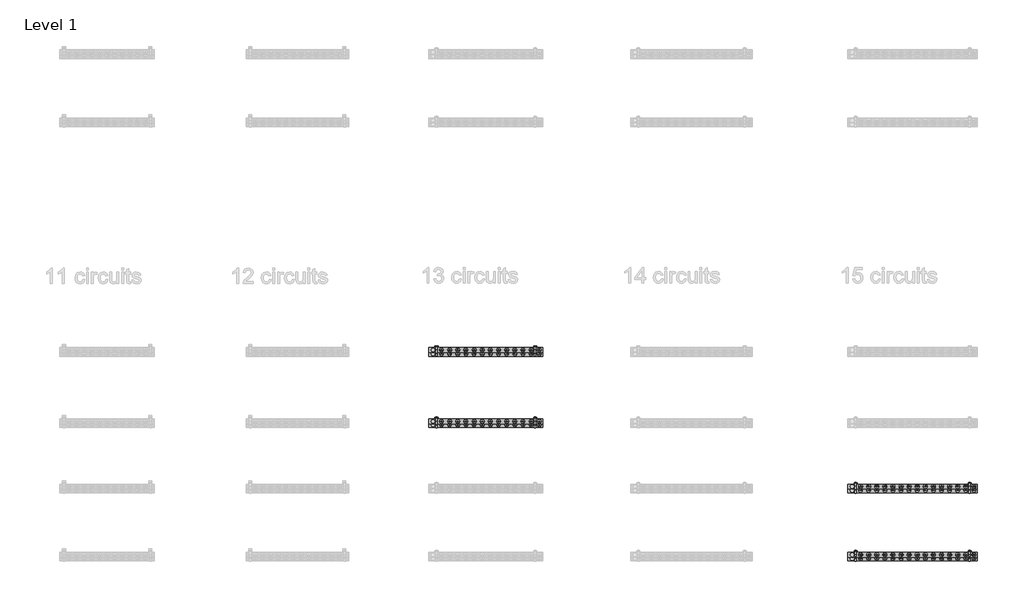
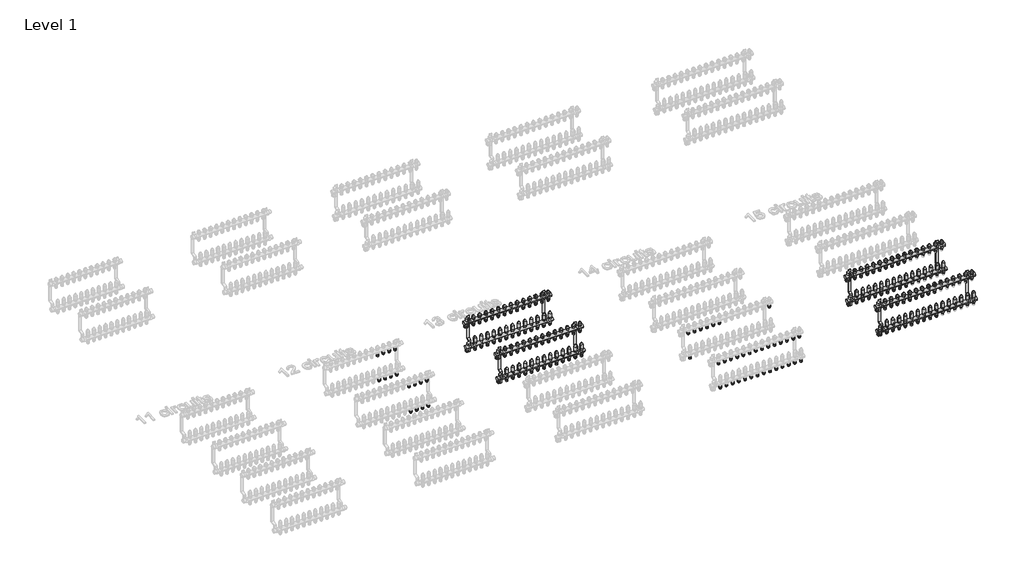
# One storey, part 6 of 23: 140 pipe fittings, 4 valves.
"""IFC4 building model written with IfcOpenShell, lengths in millimetres."""

from ifc_helpers import new_model, si_unit, origin, place, context, project, spatial, transform, mapped, element, save
from components import pipe_fitting_03c6499f, valve_cb73cf64, valve_9b29a5eb, valve_b9f81a7f, valve_96d576d6, valve_c563ffe1, valve_e7cc262d, valve_94d66b99, valve_c404d8d8

model = new_model("IFC4")

# Units and contexts
model_context = context("Model", 3, world=origin())
ifc_project = project(units=[si_unit("LENGTHUNIT", "METRE", prefix="MILLI")], contexts=[model_context])

# Site, building, storey
site = spatial("IfcSite", under=ifc_project)
building = spatial("IfcBuilding", under=site)
storey = spatial("IfcBuildingStorey", under=building, Name="Level 1", Elevation=0.0)

# Pipe fittings
placement = place(None, origin())
pipe_fitting_shape = pipe_fitting_03c6499f(model_context)
element("IfcPipeFitting", 1, ObjectType="Euroconus screwing for multilayer pipes - Manifold FT : Euroconus screwing for multilayer pipes - Manifold FT", at=placement, inside=storey, context=model_context, shape_type="MappedRepresentation", body=[
    mapped(pipe_fitting_shape, transform((12125.7069589, -1164.6959314, 62.88733), x_axis=(0.0, 0.0, -1.0), y_axis=(0.0, 1.0000000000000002, 0.0), z_axis=(1.0000000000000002, 0.0, 0.0))),
])
element("IfcPipeFitting", 2, ObjectType="Euroconus screwing for multilayer pipes - Manifold FT : Euroconus screwing for multilayer pipes - Manifold FT", at=placement, inside=storey, context=model_context, shape_type="MappedRepresentation", body=[
    mapped(pipe_fitting_shape, transform((12076.4342316, -1164.6959314, 62.88733), x_axis=(0.0, 0.0, -1.0), y_axis=(0.0, 1.0000000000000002, 0.0), z_axis=(1.0000000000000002, 0.0, 0.0))),
])
element("IfcPipeFitting", 3, ObjectType="Euroconus screwing for multilayer pipes - Manifold FT : Euroconus screwing for multilayer pipes - Manifold FT", at=placement, inside=storey, context=model_context, shape_type="MappedRepresentation", body=[
    mapped(pipe_fitting_shape, transform((12027.1615043, -1164.6959314, 62.88733), x_axis=(0.0, 0.0, -1.0), y_axis=(0.0, 1.0000000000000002, 0.0), z_axis=(1.0000000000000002, 0.0, 0.0))),
])
element("IfcPipeFitting", 4, ObjectType="Euroconus screwing for multilayer pipes - Manifold FT : Euroconus screwing for multilayer pipes - Manifold FT", at=placement, inside=storey, context=model_context, shape_type="MappedRepresentation", body=[
    mapped(pipe_fitting_shape, transform((12174.9796862, -1164.6959314, 62.88733), x_axis=(0.0, 0.0, -1.0), y_axis=(0.0, 1.0000000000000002, 0.0), z_axis=(1.0000000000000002, 0.0, 0.0))),
])
element("IfcPipeFitting", 5, ObjectType="Euroconus screwing for multilayer pipes - Manifold FT : Euroconus screwing for multilayer pipes - Manifold FT", at=placement, inside=storey, context=model_context, shape_type="MappedRepresentation", body=[
    mapped(pipe_fitting_shape, transform((12125.7069589, -1139.6959314, 272.88733), x_axis=(0.0, 0.0, -1.0), y_axis=(0.0, 1.0000000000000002, 0.0), z_axis=(1.0000000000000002, 0.0, 0.0))),
])
element("IfcPipeFitting", 6, ObjectType="Euroconus screwing for multilayer pipes - Manifold FT : Euroconus screwing for multilayer pipes - Manifold FT", at=placement, inside=storey, context=model_context, shape_type="MappedRepresentation", body=[
    mapped(pipe_fitting_shape, transform((12076.4342316, -1139.6959314, 272.88733), x_axis=(0.0, 0.0, -1.0), y_axis=(0.0, 1.0000000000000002, 0.0), z_axis=(1.0000000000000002, 0.0, 0.0))),
])
element("IfcPipeFitting", 7, ObjectType="Euroconus screwing for multilayer pipes - Manifold FT : Euroconus screwing for multilayer pipes - Manifold FT", at=placement, inside=storey, context=model_context, shape_type="MappedRepresentation", body=[
    mapped(pipe_fitting_shape, transform((12027.1615043, -1139.6959314, 272.88733), x_axis=(0.0, 0.0, -1.0), y_axis=(0.0, 1.0000000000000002, 0.0), z_axis=(1.0000000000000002, 0.0, 0.0))),
])
element("IfcPipeFitting", 8, ObjectType="Euroconus screwing for multilayer pipes - Manifold FT : Euroconus screwing for multilayer pipes - Manifold FT", at=placement, inside=storey, context=model_context, shape_type="MappedRepresentation", body=[
    mapped(pipe_fitting_shape, transform((12174.9796862, -1139.6959314, 272.88733), x_axis=(0.0, 0.0, -1.0), y_axis=(0.0, 1.0000000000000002, 0.0), z_axis=(1.0000000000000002, 0.0, 0.0))),
])
element("IfcPipeFitting", 9, ObjectType="Euroconus screwing for multilayer pipes - Manifold FT : Euroconus screwing for multilayer pipes - Manifold FT", at=placement, inside=storey, context=model_context, shape_type="MappedRepresentation", body=[
    mapped(pipe_fitting_shape, transform((13410.4796862, -1164.6959314, 62.88733), x_axis=(0.0, 0.0, -1.0), y_axis=(0.0, 1.0000000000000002, 0.0), z_axis=(1.0000000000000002, 0.0, 0.0))),
])
element("IfcPipeFitting", 10, ObjectType="Euroconus screwing for multilayer pipes - Manifold FT : Euroconus screwing for multilayer pipes - Manifold FT", at=placement, inside=storey, context=model_context, shape_type="MappedRepresentation", body=[
    mapped(pipe_fitting_shape, transform((13357.9796862, -1164.6959314, 62.88733), x_axis=(0.0, 0.0, -1.0), y_axis=(0.0, 1.0000000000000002, 0.0), z_axis=(1.0000000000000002, 0.0, 0.0))),
])
element("IfcPipeFitting", 11, ObjectType="Euroconus screwing for multilayer pipes - Manifold FT : Euroconus screwing for multilayer pipes - Manifold FT", at=placement, inside=storey, context=model_context, shape_type="MappedRepresentation", body=[
    mapped(pipe_fitting_shape, transform((13305.4796862, -1164.6959314, 62.88733), x_axis=(0.0, 0.0, -1.0), y_axis=(0.0, 1.0000000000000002, 0.0), z_axis=(1.0000000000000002, 0.0, 0.0))),
])
element("IfcPipeFitting", 12, ObjectType="Euroconus screwing for multilayer pipes - Manifold FT : Euroconus screwing for multilayer pipes - Manifold FT", at=placement, inside=storey, context=model_context, shape_type="MappedRepresentation", body=[
    mapped(pipe_fitting_shape, transform((13252.9796862, -1164.6959314, 62.88733), x_axis=(0.0, 0.0, -1.0), y_axis=(0.0, 1.0000000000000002, 0.0), z_axis=(1.0000000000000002, 0.0, 0.0))),
])
element("IfcPipeFitting", 13, ObjectType="Euroconus screwing for multilayer pipes - Manifold FT : Euroconus screwing for multilayer pipes - Manifold FT", at=placement, inside=storey, context=model_context, shape_type="MappedRepresentation", body=[
    mapped(pipe_fitting_shape, transform((13200.4796862, -1164.6959314, 62.88733), x_axis=(0.0, 0.0, -1.0), y_axis=(0.0, 1.0000000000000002, 0.0), z_axis=(1.0000000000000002, 0.0, 0.0))),
])
element("IfcPipeFitting", 14, ObjectType="Euroconus screwing for multilayer pipes - Manifold FT : Euroconus screwing for multilayer pipes - Manifold FT", at=placement, inside=storey, context=model_context, shape_type="MappedRepresentation", body=[
    mapped(pipe_fitting_shape, transform((13147.9796862, -1164.6959314, 62.88733), x_axis=(0.0, 0.0, -1.0), y_axis=(0.0, 1.0000000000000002, 0.0), z_axis=(1.0000000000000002, 0.0, 0.0))),
])
element("IfcPipeFitting", 15, ObjectType="Euroconus screwing for multilayer pipes - Manifold FT : Euroconus screwing for multilayer pipes - Manifold FT", at=placement, inside=storey, context=model_context, shape_type="MappedRepresentation", body=[
    mapped(pipe_fitting_shape, transform((13095.4796862, -1164.6959314, 62.88733), x_axis=(0.0, 0.0, -1.0), y_axis=(0.0, 1.0000000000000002, 0.0), z_axis=(1.0000000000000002, 0.0, 0.0))),
])
element("IfcPipeFitting", 16, ObjectType="Euroconus screwing for multilayer pipes - Manifold FT : Euroconus screwing for multilayer pipes - Manifold FT", at=placement, inside=storey, context=model_context, shape_type="MappedRepresentation", body=[
    mapped(pipe_fitting_shape, transform((13042.9796862, -1164.6959314, 62.88733), x_axis=(0.0, 0.0, -1.0), y_axis=(0.0, 1.0000000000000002, 0.0), z_axis=(1.0000000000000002, 0.0, 0.0))),
])
element("IfcPipeFitting", 17, ObjectType="Euroconus screwing for multilayer pipes - Manifold FT : Euroconus screwing for multilayer pipes - Manifold FT", at=placement, inside=storey, context=model_context, shape_type="MappedRepresentation", body=[
    mapped(pipe_fitting_shape, transform((12990.4796862, -1164.6959314, 62.88733), x_axis=(0.0, 0.0, -1.0), y_axis=(0.0, 1.0000000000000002, 0.0), z_axis=(1.0000000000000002, 0.0, 0.0))),
])
element("IfcPipeFitting", 18, ObjectType="Euroconus screwing for multilayer pipes - Manifold FT : Euroconus screwing for multilayer pipes - Manifold FT", at=placement, inside=storey, context=model_context, shape_type="MappedRepresentation", body=[
    mapped(pipe_fitting_shape, transform((12937.9796862, -1164.6959314, 62.88733), x_axis=(0.0, 0.0, -1.0), y_axis=(0.0, 1.0000000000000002, 0.0), z_axis=(1.0000000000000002, 0.0, 0.0))),
])
element("IfcPipeFitting", 19, ObjectType="Euroconus screwing for multilayer pipes - Manifold FT : Euroconus screwing for multilayer pipes - Manifold FT", at=placement, inside=storey, context=model_context, shape_type="MappedRepresentation", body=[
    mapped(pipe_fitting_shape, transform((12885.4796862, -1164.6959314, 62.88733), x_axis=(0.0, 0.0, -1.0), y_axis=(0.0, 1.0000000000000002, 0.0), z_axis=(1.0000000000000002, 0.0, 0.0))),
])
element("IfcPipeFitting", 20, ObjectType="Euroconus screwing for multilayer pipes - Manifold FT : Euroconus screwing for multilayer pipes - Manifold FT", at=placement, inside=storey, context=model_context, shape_type="MappedRepresentation", body=[
    mapped(pipe_fitting_shape, transform((13462.9796862, -1164.6959314, 62.88733), x_axis=(0.0, 0.0, -1.0), y_axis=(0.0, 1.0000000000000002, 0.0), z_axis=(1.0000000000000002, 0.0, 0.0))),
])
element("IfcPipeFitting", 21, ObjectType="Euroconus screwing for multilayer pipes - Manifold FT : Euroconus screwing for multilayer pipes - Manifold FT", at=placement, inside=storey, context=model_context, shape_type="MappedRepresentation", body=[
    mapped(pipe_fitting_shape, transform((13410.4796862, -1139.6959314, 262.88733), x_axis=(0.0, 0.0, -1.0), y_axis=(0.0, 1.0000000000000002, 0.0), z_axis=(1.0000000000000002, 0.0, 0.0))),
])
element("IfcPipeFitting", 22, ObjectType="Euroconus screwing for multilayer pipes - Manifold FT : Euroconus screwing for multilayer pipes - Manifold FT", at=placement, inside=storey, context=model_context, shape_type="MappedRepresentation", body=[
    mapped(pipe_fitting_shape, transform((13357.9796862, -1139.6959314, 262.88733), x_axis=(0.0, 0.0, -1.0), y_axis=(0.0, 1.0000000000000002, 0.0), z_axis=(1.0000000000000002, 0.0, 0.0))),
])
element("IfcPipeFitting", 23, ObjectType="Euroconus screwing for multilayer pipes - Manifold FT : Euroconus screwing for multilayer pipes - Manifold FT", at=placement, inside=storey, context=model_context, shape_type="MappedRepresentation", body=[
    mapped(pipe_fitting_shape, transform((13305.4796862, -1139.6959314, 262.88733), x_axis=(0.0, 0.0, -1.0), y_axis=(0.0, 1.0000000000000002, 0.0), z_axis=(1.0000000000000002, 0.0, 0.0))),
])
element("IfcPipeFitting", 24, ObjectType="Euroconus screwing for multilayer pipes - Manifold FT : Euroconus screwing for multilayer pipes - Manifold FT", at=placement, inside=storey, context=model_context, shape_type="MappedRepresentation", body=[
    mapped(pipe_fitting_shape, transform((13252.9796862, -1139.6959314, 262.88733), x_axis=(0.0, 0.0, -1.0), y_axis=(0.0, 1.0000000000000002, 0.0), z_axis=(1.0000000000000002, 0.0, 0.0))),
])
element("IfcPipeFitting", 25, ObjectType="Euroconus screwing for multilayer pipes - Manifold FT : Euroconus screwing for multilayer pipes - Manifold FT", at=placement, inside=storey, context=model_context, shape_type="MappedRepresentation", body=[
    mapped(pipe_fitting_shape, transform((13200.4796862, -1139.6959314, 262.88733), x_axis=(0.0, 0.0, -1.0), y_axis=(0.0, 1.0000000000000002, 0.0), z_axis=(1.0000000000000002, 0.0, 0.0))),
])
element("IfcPipeFitting", 26, ObjectType="Euroconus screwing for multilayer pipes - Manifold FT : Euroconus screwing for multilayer pipes - Manifold FT", at=placement, inside=storey, context=model_context, shape_type="MappedRepresentation", body=[
    mapped(pipe_fitting_shape, transform((13147.9796862, -1139.6959314, 262.88733), x_axis=(0.0, 0.0, -1.0), y_axis=(0.0, 1.0000000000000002, 0.0), z_axis=(1.0000000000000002, 0.0, 0.0))),
])
element("IfcPipeFitting", 27, ObjectType="Euroconus screwing for multilayer pipes - Manifold FT : Euroconus screwing for multilayer pipes - Manifold FT", at=placement, inside=storey, context=model_context, shape_type="MappedRepresentation", body=[
    mapped(pipe_fitting_shape, transform((13095.4796862, -1139.6959314, 262.88733), x_axis=(0.0, 0.0, -1.0), y_axis=(0.0, 1.0000000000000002, 0.0), z_axis=(1.0000000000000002, 0.0, 0.0))),
])
element("IfcPipeFitting", 28, ObjectType="Euroconus screwing for multilayer pipes - Manifold FT : Euroconus screwing for multilayer pipes - Manifold FT", at=placement, inside=storey, context=model_context, shape_type="MappedRepresentation", body=[
    mapped(pipe_fitting_shape, transform((13042.9796862, -1139.6959314, 262.88733), x_axis=(0.0, 0.0, -1.0), y_axis=(0.0, 1.0000000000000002, 0.0), z_axis=(1.0000000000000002, 0.0, 0.0))),
])
element("IfcPipeFitting", 29, ObjectType="Euroconus screwing for multilayer pipes - Manifold FT : Euroconus screwing for multilayer pipes - Manifold FT", at=placement, inside=storey, context=model_context, shape_type="MappedRepresentation", body=[
    mapped(pipe_fitting_shape, transform((12990.4796862, -1139.6959314, 262.88733), x_axis=(0.0, 0.0, -1.0), y_axis=(0.0, 1.0000000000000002, 0.0), z_axis=(1.0000000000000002, 0.0, 0.0))),
])
element("IfcPipeFitting", 30, ObjectType="Euroconus screwing for multilayer pipes - Manifold FT : Euroconus screwing for multilayer pipes - Manifold FT", at=placement, inside=storey, context=model_context, shape_type="MappedRepresentation", body=[
    mapped(pipe_fitting_shape, transform((12937.9796862, -1139.6959314, 262.88733), x_axis=(0.0, 0.0, -1.0), y_axis=(0.0, 1.0000000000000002, 0.0), z_axis=(1.0000000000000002, 0.0, 0.0))),
])
element("IfcPipeFitting", 31, ObjectType="Euroconus screwing for multilayer pipes - Manifold FT : Euroconus screwing for multilayer pipes - Manifold FT", at=placement, inside=storey, context=model_context, shape_type="MappedRepresentation", body=[
    mapped(pipe_fitting_shape, transform((12885.4796862, -1139.6959314, 262.88733), x_axis=(0.0, 0.0, -1.0), y_axis=(0.0, 1.0000000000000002, 0.0), z_axis=(1.0000000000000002, 0.0, 0.0))),
])
element("IfcPipeFitting", 32, ObjectType="Euroconus screwing for multilayer pipes - Manifold FT : Euroconus screwing for multilayer pipes - Manifold FT", at=placement, inside=storey, context=model_context, shape_type="MappedRepresentation", body=[
    mapped(pipe_fitting_shape, transform((13462.9796862, -1139.6959314, 262.88733), x_axis=(0.0, 0.0, -1.0), y_axis=(0.0, 1.0000000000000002, 0.0), z_axis=(1.0000000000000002, 0.0, 0.0))),
])
element("IfcPipeFitting", 33, ObjectType="Euroconus screwing for multilayer pipes - Manifold FT : Euroconus screwing for multilayer pipes - Manifold FT", at=placement, inside=storey, context=model_context, shape_type="MappedRepresentation", body=[
    mapped(pipe_fitting_shape, transform((12832.9796862, -1164.6959314, 62.88733), x_axis=(0.0, 0.0, -1.0), y_axis=(0.0, 1.0000000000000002, 0.0), z_axis=(1.0000000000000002, 0.0, 0.0))),
])
element("IfcPipeFitting", 34, ObjectType="Euroconus screwing for multilayer pipes - Manifold FT : Euroconus screwing for multilayer pipes - Manifold FT", at=placement, inside=storey, context=model_context, shape_type="MappedRepresentation", body=[
    mapped(pipe_fitting_shape, transform((12832.9796862, -1139.6959314, 262.88733), x_axis=(0.0, 0.0, -1.0), y_axis=(0.0, 1.0000000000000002, 0.0), z_axis=(1.0000000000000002, 0.0, 0.0))),
])
element("IfcPipeFitting", 35, ObjectType="Euroconus screwing for multilayer pipes - Manifold FT : Euroconus screwing for multilayer pipes - Manifold FT", at=placement, inside=storey, context=model_context, shape_type="MappedRepresentation", body=[
    mapped(pipe_fitting_shape, transform((12125.7069589, -1624.6959314, 62.88733), x_axis=(0.0, 0.0, -1.0), y_axis=(0.0, 1.0000000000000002, 0.0), z_axis=(1.0000000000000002, 0.0, 0.0))),
])
element("IfcPipeFitting", 36, ObjectType="Euroconus screwing for multilayer pipes - Manifold FT : Euroconus screwing for multilayer pipes - Manifold FT", at=placement, inside=storey, context=model_context, shape_type="MappedRepresentation", body=[
    mapped(pipe_fitting_shape, transform((12076.4342316, -1624.6959314, 62.88733), x_axis=(0.0, 0.0, -1.0), y_axis=(0.0, 1.0000000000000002, 0.0), z_axis=(1.0000000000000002, 0.0, 0.0))),
])
element("IfcPipeFitting", 37, ObjectType="Euroconus screwing for multilayer pipes - Manifold FT : Euroconus screwing for multilayer pipes - Manifold FT", at=placement, inside=storey, context=model_context, shape_type="MappedRepresentation", body=[
    mapped(pipe_fitting_shape, transform((12027.1615043, -1624.6959314, 62.88733), x_axis=(0.0, 0.0, -1.0), y_axis=(0.0, 1.0000000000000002, 0.0), z_axis=(1.0000000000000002, 0.0, 0.0))),
])
element("IfcPipeFitting", 38, ObjectType="Euroconus screwing for multilayer pipes - Manifold FT : Euroconus screwing for multilayer pipes - Manifold FT", at=placement, inside=storey, context=model_context, shape_type="MappedRepresentation", body=[
    mapped(pipe_fitting_shape, transform((12174.9796862, -1624.6959314, 62.88733), x_axis=(0.0, 0.0, -1.0), y_axis=(0.0, 1.0000000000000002, 0.0), z_axis=(1.0000000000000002, 0.0, 0.0))),
])
element("IfcPipeFitting", 39, ObjectType="Euroconus screwing for multilayer pipes - Manifold FT : Euroconus screwing for multilayer pipes - Manifold FT", at=placement, inside=storey, context=model_context, shape_type="MappedRepresentation", body=[
    mapped(pipe_fitting_shape, transform((12125.7069589, -1599.6959314, 272.88733), x_axis=(0.0, 0.0, -1.0), y_axis=(0.0, 1.0000000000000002, 0.0), z_axis=(1.0000000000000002, 0.0, 0.0))),
])
element("IfcPipeFitting", 40, ObjectType="Euroconus screwing for multilayer pipes - Manifold FT : Euroconus screwing for multilayer pipes - Manifold FT", at=placement, inside=storey, context=model_context, shape_type="MappedRepresentation", body=[
    mapped(pipe_fitting_shape, transform((12076.4342316, -1599.6959314, 272.88733), x_axis=(0.0, 0.0, -1.0), y_axis=(0.0, 1.0000000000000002, 0.0), z_axis=(1.0000000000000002, 0.0, 0.0))),
])
element("IfcPipeFitting", 41, ObjectType="Euroconus screwing for multilayer pipes - Manifold FT : Euroconus screwing for multilayer pipes - Manifold FT", at=placement, inside=storey, context=model_context, shape_type="MappedRepresentation", body=[
    mapped(pipe_fitting_shape, transform((12027.1615043, -1599.6959314, 272.88733), x_axis=(0.0, 0.0, -1.0), y_axis=(0.0, 1.0000000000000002, 0.0), z_axis=(1.0000000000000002, 0.0, 0.0))),
])
element("IfcPipeFitting", 42, ObjectType="Euroconus screwing for multilayer pipes - Manifold FT : Euroconus screwing for multilayer pipes - Manifold FT", at=placement, inside=storey, context=model_context, shape_type="MappedRepresentation", body=[
    mapped(pipe_fitting_shape, transform((12174.9796862, -1599.6959314, 272.88733), x_axis=(0.0, 0.0, -1.0), y_axis=(0.0, 1.0000000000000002, 0.0), z_axis=(1.0000000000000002, 0.0, 0.0))),
])
element("IfcPipeFitting", 43, ObjectType="Euroconus screwing for multilayer pipes - Manifold FT : Euroconus screwing for multilayer pipes - Manifold FT", at=placement, inside=storey, context=model_context, shape_type="MappedRepresentation", body=[
    mapped(pipe_fitting_shape, transform((13410.4796862, -1624.6959314, 62.88733), x_axis=(0.0, 0.0, -1.0), y_axis=(0.0, 1.0000000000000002, 0.0), z_axis=(1.0000000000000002, 0.0, 0.0))),
])
element("IfcPipeFitting", 44, ObjectType="Euroconus screwing for multilayer pipes - Manifold FT : Euroconus screwing for multilayer pipes - Manifold FT", at=placement, inside=storey, context=model_context, shape_type="MappedRepresentation", body=[
    mapped(pipe_fitting_shape, transform((13357.9796862, -1624.6959314, 62.88733), x_axis=(0.0, 0.0, -1.0), y_axis=(0.0, 1.0000000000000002, 0.0), z_axis=(1.0000000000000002, 0.0, 0.0))),
])
element("IfcPipeFitting", 45, ObjectType="Euroconus screwing for multilayer pipes - Manifold FT : Euroconus screwing for multilayer pipes - Manifold FT", at=placement, inside=storey, context=model_context, shape_type="MappedRepresentation", body=[
    mapped(pipe_fitting_shape, transform((13305.4796862, -1624.6959314, 62.88733), x_axis=(0.0, 0.0, -1.0), y_axis=(0.0, 1.0000000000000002, 0.0), z_axis=(1.0000000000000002, 0.0, 0.0))),
])
element("IfcPipeFitting", 46, ObjectType="Euroconus screwing for multilayer pipes - Manifold FT : Euroconus screwing for multilayer pipes - Manifold FT", at=placement, inside=storey, context=model_context, shape_type="MappedRepresentation", body=[
    mapped(pipe_fitting_shape, transform((13252.9796862, -1624.6959314, 62.88733), x_axis=(0.0, 0.0, -1.0), y_axis=(0.0, 1.0000000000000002, 0.0), z_axis=(1.0000000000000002, 0.0, 0.0))),
])
element("IfcPipeFitting", 47, ObjectType="Euroconus screwing for multilayer pipes - Manifold FT : Euroconus screwing for multilayer pipes - Manifold FT", at=placement, inside=storey, context=model_context, shape_type="MappedRepresentation", body=[
    mapped(pipe_fitting_shape, transform((13200.4796862, -1624.6959314, 62.88733), x_axis=(0.0, 0.0, -1.0), y_axis=(0.0, 1.0000000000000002, 0.0), z_axis=(1.0000000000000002, 0.0, 0.0))),
])
element("IfcPipeFitting", 48, ObjectType="Euroconus screwing for multilayer pipes - Manifold FT : Euroconus screwing for multilayer pipes - Manifold FT", at=placement, inside=storey, context=model_context, shape_type="MappedRepresentation", body=[
    mapped(pipe_fitting_shape, transform((13147.9796862, -1624.6959314, 62.88733), x_axis=(0.0, 0.0, -1.0), y_axis=(0.0, 1.0000000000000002, 0.0), z_axis=(1.0000000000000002, 0.0, 0.0))),
])
element("IfcPipeFitting", 49, ObjectType="Euroconus screwing for multilayer pipes - Manifold FT : Euroconus screwing for multilayer pipes - Manifold FT", at=placement, inside=storey, context=model_context, shape_type="MappedRepresentation", body=[
    mapped(pipe_fitting_shape, transform((13095.4796862, -1624.6959314, 62.88733), x_axis=(0.0, 0.0, -1.0), y_axis=(0.0, 1.0000000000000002, 0.0), z_axis=(1.0000000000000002, 0.0, 0.0))),
])
element("IfcPipeFitting", 50, ObjectType="Euroconus screwing for multilayer pipes - Manifold FT : Euroconus screwing for multilayer pipes - Manifold FT", at=placement, inside=storey, context=model_context, shape_type="MappedRepresentation", body=[
    mapped(pipe_fitting_shape, transform((13042.9796862, -1624.6959314, 62.88733), x_axis=(0.0, 0.0, -1.0), y_axis=(0.0, 1.0000000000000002, 0.0), z_axis=(1.0000000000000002, 0.0, 0.0))),
])
element("IfcPipeFitting", 51, ObjectType="Euroconus screwing for multilayer pipes - Manifold FT : Euroconus screwing for multilayer pipes - Manifold FT", at=placement, inside=storey, context=model_context, shape_type="MappedRepresentation", body=[
    mapped(pipe_fitting_shape, transform((12990.4796862, -1624.6959314, 62.88733), x_axis=(0.0, 0.0, -1.0), y_axis=(0.0, 1.0000000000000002, 0.0), z_axis=(1.0000000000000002, 0.0, 0.0))),
])
element("IfcPipeFitting", 52, ObjectType="Euroconus screwing for multilayer pipes - Manifold FT : Euroconus screwing for multilayer pipes - Manifold FT", at=placement, inside=storey, context=model_context, shape_type="MappedRepresentation", body=[
    mapped(pipe_fitting_shape, transform((12937.9796862, -1624.6959314, 62.88733), x_axis=(0.0, 0.0, -1.0), y_axis=(0.0, 1.0000000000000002, 0.0), z_axis=(1.0000000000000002, 0.0, 0.0))),
])
element("IfcPipeFitting", 53, ObjectType="Euroconus screwing for multilayer pipes - Manifold FT : Euroconus screwing for multilayer pipes - Manifold FT", at=placement, inside=storey, context=model_context, shape_type="MappedRepresentation", body=[
    mapped(pipe_fitting_shape, transform((12885.4796862, -1624.6959314, 62.88733), x_axis=(0.0, 0.0, -1.0), y_axis=(0.0, 1.0000000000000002, 0.0), z_axis=(1.0000000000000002, 0.0, 0.0))),
])
element("IfcPipeFitting", 54, ObjectType="Euroconus screwing for multilayer pipes - Manifold FT : Euroconus screwing for multilayer pipes - Manifold FT", at=placement, inside=storey, context=model_context, shape_type="MappedRepresentation", body=[
    mapped(pipe_fitting_shape, transform((13462.9796862, -1624.6959314, 62.88733), x_axis=(0.0, 0.0, -1.0), y_axis=(0.0, 1.0000000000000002, 0.0), z_axis=(1.0000000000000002, 0.0, 0.0))),
])
element("IfcPipeFitting", 55, ObjectType="Euroconus screwing for multilayer pipes - Manifold FT : Euroconus screwing for multilayer pipes - Manifold FT", at=placement, inside=storey, context=model_context, shape_type="MappedRepresentation", body=[
    mapped(pipe_fitting_shape, transform((13410.4796862, -1599.6959314, 262.88733), x_axis=(0.0, 0.0, -1.0), y_axis=(0.0, 1.0000000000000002, 0.0), z_axis=(1.0000000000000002, 0.0, 0.0))),
])
element("IfcPipeFitting", 56, ObjectType="Euroconus screwing for multilayer pipes - Manifold FT : Euroconus screwing for multilayer pipes - Manifold FT", at=placement, inside=storey, context=model_context, shape_type="MappedRepresentation", body=[
    mapped(pipe_fitting_shape, transform((13357.9796862, -1599.6959314, 262.88733), x_axis=(0.0, 0.0, -1.0), y_axis=(0.0, 1.0000000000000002, 0.0), z_axis=(1.0000000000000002, 0.0, 0.0))),
])
element("IfcPipeFitting", 57, ObjectType="Euroconus screwing for multilayer pipes - Manifold FT : Euroconus screwing for multilayer pipes - Manifold FT", at=placement, inside=storey, context=model_context, shape_type="MappedRepresentation", body=[
    mapped(pipe_fitting_shape, transform((13305.4796862, -1599.6959314, 262.88733), x_axis=(0.0, 0.0, -1.0), y_axis=(0.0, 1.0000000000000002, 0.0), z_axis=(1.0000000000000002, 0.0, 0.0))),
])
element("IfcPipeFitting", 58, ObjectType="Euroconus screwing for multilayer pipes - Manifold FT : Euroconus screwing for multilayer pipes - Manifold FT", at=placement, inside=storey, context=model_context, shape_type="MappedRepresentation", body=[
    mapped(pipe_fitting_shape, transform((13252.9796862, -1599.6959314, 262.88733), x_axis=(0.0, 0.0, -1.0), y_axis=(0.0, 1.0000000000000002, 0.0), z_axis=(1.0000000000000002, 0.0, 0.0))),
])
element("IfcPipeFitting", 59, ObjectType="Euroconus screwing for multilayer pipes - Manifold FT : Euroconus screwing for multilayer pipes - Manifold FT", at=placement, inside=storey, context=model_context, shape_type="MappedRepresentation", body=[
    mapped(pipe_fitting_shape, transform((13200.4796862, -1599.6959314, 262.88733), x_axis=(0.0, 0.0, -1.0), y_axis=(0.0, 1.0000000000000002, 0.0), z_axis=(1.0000000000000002, 0.0, 0.0))),
])
element("IfcPipeFitting", 60, ObjectType="Euroconus screwing for multilayer pipes - Manifold FT : Euroconus screwing for multilayer pipes - Manifold FT", at=placement, inside=storey, context=model_context, shape_type="MappedRepresentation", body=[
    mapped(pipe_fitting_shape, transform((13147.9796862, -1599.6959314, 262.88733), x_axis=(0.0, 0.0, -1.0), y_axis=(0.0, 1.0000000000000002, 0.0), z_axis=(1.0000000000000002, 0.0, 0.0))),
])
element("IfcPipeFitting", 61, ObjectType="Euroconus screwing for multilayer pipes - Manifold FT : Euroconus screwing for multilayer pipes - Manifold FT", at=placement, inside=storey, context=model_context, shape_type="MappedRepresentation", body=[
    mapped(pipe_fitting_shape, transform((13095.4796862, -1599.6959314, 262.88733), x_axis=(0.0, 0.0, -1.0), y_axis=(0.0, 1.0000000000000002, 0.0), z_axis=(1.0000000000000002, 0.0, 0.0))),
])
element("IfcPipeFitting", 62, ObjectType="Euroconus screwing for multilayer pipes - Manifold FT : Euroconus screwing for multilayer pipes - Manifold FT", at=placement, inside=storey, context=model_context, shape_type="MappedRepresentation", body=[
    mapped(pipe_fitting_shape, transform((13042.9796862, -1599.6959314, 262.88733), x_axis=(0.0, 0.0, -1.0), y_axis=(0.0, 1.0000000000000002, 0.0), z_axis=(1.0000000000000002, 0.0, 0.0))),
])
element("IfcPipeFitting", 63, ObjectType="Euroconus screwing for multilayer pipes - Manifold FT : Euroconus screwing for multilayer pipes - Manifold FT", at=placement, inside=storey, context=model_context, shape_type="MappedRepresentation", body=[
    mapped(pipe_fitting_shape, transform((12990.4796862, -1599.6959314, 262.88733), x_axis=(0.0, 0.0, -1.0), y_axis=(0.0, 1.0000000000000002, 0.0), z_axis=(1.0000000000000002, 0.0, 0.0))),
])
element("IfcPipeFitting", 64, ObjectType="Euroconus screwing for multilayer pipes - Manifold FT : Euroconus screwing for multilayer pipes - Manifold FT", at=placement, inside=storey, context=model_context, shape_type="MappedRepresentation", body=[
    mapped(pipe_fitting_shape, transform((12937.9796862, -1599.6959314, 262.88733), x_axis=(0.0, 0.0, -1.0), y_axis=(0.0, 1.0000000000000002, 0.0), z_axis=(1.0000000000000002, 0.0, 0.0))),
])
element("IfcPipeFitting", 65, ObjectType="Euroconus screwing for multilayer pipes - Manifold FT : Euroconus screwing for multilayer pipes - Manifold FT", at=placement, inside=storey, context=model_context, shape_type="MappedRepresentation", body=[
    mapped(pipe_fitting_shape, transform((12885.4796862, -1599.6959314, 262.88733), x_axis=(0.0, 0.0, -1.0), y_axis=(0.0, 1.0000000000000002, 0.0), z_axis=(1.0000000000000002, 0.0, 0.0))),
])
element("IfcPipeFitting", 66, ObjectType="Euroconus screwing for multilayer pipes - Manifold FT : Euroconus screwing for multilayer pipes - Manifold FT", at=placement, inside=storey, context=model_context, shape_type="MappedRepresentation", body=[
    mapped(pipe_fitting_shape, transform((13462.9796862, -1599.6959314, 262.88733), x_axis=(0.0, 0.0, -1.0), y_axis=(0.0, 1.0000000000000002, 0.0), z_axis=(1.0000000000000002, 0.0, 0.0))),
])
element("IfcPipeFitting", 67, ObjectType="Euroconus screwing for multilayer pipes - Manifold FT : Euroconus screwing for multilayer pipes - Manifold FT", at=placement, inside=storey, context=model_context, shape_type="MappedRepresentation", body=[
    mapped(pipe_fitting_shape, transform((12832.9796862, -1624.6959314, 62.88733), x_axis=(0.0, 0.0, -1.0), y_axis=(0.0, 1.0000000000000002, 0.0), z_axis=(1.0000000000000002, 0.0, 0.0))),
])
element("IfcPipeFitting", 68, ObjectType="Euroconus screwing for multilayer pipes - Manifold FT : Euroconus screwing for multilayer pipes - Manifold FT", at=placement, inside=storey, context=model_context, shape_type="MappedRepresentation", body=[
    mapped(pipe_fitting_shape, transform((12832.9796862, -1599.6959314, 262.88733), x_axis=(0.0, 0.0, -1.0), y_axis=(0.0, 1.0000000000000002, 0.0), z_axis=(1.0000000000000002, 0.0, 0.0))),
])
element("IfcPipeFitting", 69, ObjectType="Euroconus screwing for multilayer pipes - Manifold FT : Euroconus screwing for multilayer pipes - Manifold FT", at=placement, inside=storey, context=model_context, shape_type="MappedRepresentation", body=[
    mapped(pipe_fitting_shape, transform((14394.5181477, -2019.6959314, 262.88733), x_axis=(0.0, 0.0, -1.0), y_axis=(0.0, 1.0000000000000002, 0.0), z_axis=(1.0000000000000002, 0.0, 0.0))),
])
element("IfcPipeFitting", 70, ObjectType="Euroconus screwing for multilayer pipes - Manifold FT : Euroconus screwing for multilayer pipes - Manifold FT", at=placement, inside=storey, context=model_context, shape_type="MappedRepresentation", body=[
    mapped(pipe_fitting_shape, transform((14342.2104554, -2019.6959314, 262.88733), x_axis=(0.0, 0.0, -1.0), y_axis=(0.0, 1.0000000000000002, 0.0), z_axis=(1.0000000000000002, 0.0, 0.0))),
])
element("IfcPipeFitting", 71, ObjectType="Euroconus screwing for multilayer pipes - Manifold FT : Euroconus screwing for multilayer pipes - Manifold FT", at=placement, inside=storey, context=model_context, shape_type="MappedRepresentation", body=[
    mapped(pipe_fitting_shape, transform((14289.9027631, -2019.6959314, 262.88733), x_axis=(0.0, 0.0, -1.0), y_axis=(0.0, 1.0000000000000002, 0.0), z_axis=(1.0000000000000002, 0.0, 0.0))),
])
element("IfcPipeFitting", 72, ObjectType="Euroconus screwing for multilayer pipes - Manifold FT : Euroconus screwing for multilayer pipes - Manifold FT", at=placement, inside=storey, context=model_context, shape_type="MappedRepresentation", body=[
    mapped(pipe_fitting_shape, transform((14237.5950708, -2019.6959314, 262.88733), x_axis=(0.0, 0.0, -1.0), y_axis=(0.0, 1.0000000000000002, 0.0), z_axis=(1.0000000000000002, 0.0, 0.0))),
])
element("IfcPipeFitting", 73, ObjectType="Euroconus screwing for multilayer pipes - Manifold FT : Euroconus screwing for multilayer pipes - Manifold FT", at=placement, inside=storey, context=model_context, shape_type="MappedRepresentation", body=[
    mapped(pipe_fitting_shape, transform((14185.2873785, -2019.6959314, 262.88733), x_axis=(0.0, 0.0, -1.0), y_axis=(0.0, 1.0000000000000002, 0.0), z_axis=(1.0000000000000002, 0.0, 0.0))),
])
element("IfcPipeFitting", 74, ObjectType="Euroconus screwing for multilayer pipes - Manifold FT : Euroconus screwing for multilayer pipes - Manifold FT", at=placement, inside=storey, context=model_context, shape_type="MappedRepresentation", body=[
    mapped(pipe_fitting_shape, transform((14812.9796862, -2019.6959314, 262.88733), x_axis=(0.0, 0.0, -1.0), y_axis=(0.0, 1.0000000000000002, 0.0), z_axis=(1.0000000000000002, 0.0, 0.0))),
])
element("IfcPipeFitting", 75, ObjectType="Euroconus screwing for multilayer pipes - Manifold FT : Euroconus screwing for multilayer pipes - Manifold FT", at=placement, inside=storey, context=model_context, shape_type="MappedRepresentation", body=[
    mapped(pipe_fitting_shape, transform((14132.9796862, -2044.6959314, 62.88733), x_axis=(0.0, 0.0, -1.0), y_axis=(0.0, 1.0000000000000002, 0.0), z_axis=(1.0000000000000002, 0.0, 0.0))),
])
element("IfcPipeFitting", 76, ObjectType="Euroconus screwing for multilayer pipes - Manifold FT : Euroconus screwing for multilayer pipes - Manifold FT", at=placement, inside=storey, context=model_context, shape_type="MappedRepresentation", body=[
    mapped(pipe_fitting_shape, transform((14132.9796862, -2019.6959314, 262.88733), x_axis=(0.0, 0.0, -1.0), y_axis=(0.0, 1.0000000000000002, 0.0), z_axis=(1.0000000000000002, 0.0, 0.0))),
])
element("IfcPipeFitting", 77, ObjectType="Euroconus screwing for multilayer pipes - Manifold FT : Euroconus screwing for multilayer pipes - Manifold FT", at=placement, inside=storey, context=model_context, shape_type="MappedRepresentation", body=[
    mapped(pipe_fitting_shape, transform((15950.1225433, -2044.6959314, 62.88733), x_axis=(0.0, 0.0, -1.0), y_axis=(0.0, 1.0000000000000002, 0.0), z_axis=(1.0000000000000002, 0.0, 0.0))),
])
element("IfcPipeFitting", 78, ObjectType="Euroconus screwing for multilayer pipes - Manifold FT : Euroconus screwing for multilayer pipes - Manifold FT", at=placement, inside=storey, context=model_context, shape_type="MappedRepresentation", body=[
    mapped(pipe_fitting_shape, transform((15897.9796862, -2044.6959314, 62.88733), x_axis=(0.0, 0.0, -1.0), y_axis=(0.0, 1.0000000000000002, 0.0), z_axis=(1.0000000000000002, 0.0, 0.0))),
])
element("IfcPipeFitting", 79, ObjectType="Euroconus screwing for multilayer pipes - Manifold FT : Euroconus screwing for multilayer pipes - Manifold FT", at=placement, inside=storey, context=model_context, shape_type="MappedRepresentation", body=[
    mapped(pipe_fitting_shape, transform((15845.836829, -2044.6959314, 62.88733), x_axis=(0.0, 0.0, -1.0), y_axis=(0.0, 1.0000000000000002, 0.0), z_axis=(1.0000000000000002, 0.0, 0.0))),
])
element("IfcPipeFitting", 80, ObjectType="Euroconus screwing for multilayer pipes - Manifold FT : Euroconus screwing for multilayer pipes - Manifold FT", at=placement, inside=storey, context=model_context, shape_type="MappedRepresentation", body=[
    mapped(pipe_fitting_shape, transform((15793.6939719, -2044.6959314, 62.88733), x_axis=(0.0, 0.0, -1.0), y_axis=(0.0, 1.0000000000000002, 0.0), z_axis=(1.0000000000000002, 0.0, 0.0))),
])
element("IfcPipeFitting", 81, ObjectType="Euroconus screwing for multilayer pipes - Manifold FT : Euroconus screwing for multilayer pipes - Manifold FT", at=placement, inside=storey, context=model_context, shape_type="MappedRepresentation", body=[
    mapped(pipe_fitting_shape, transform((15741.5511147, -2044.6959314, 62.88733), x_axis=(0.0, 0.0, -1.0), y_axis=(0.0, 1.0000000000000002, 0.0), z_axis=(1.0000000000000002, 0.0, 0.0))),
])
element("IfcPipeFitting", 82, ObjectType="Euroconus screwing for multilayer pipes - Manifold FT : Euroconus screwing for multilayer pipes - Manifold FT", at=placement, inside=storey, context=model_context, shape_type="MappedRepresentation", body=[
    mapped(pipe_fitting_shape, transform((15689.4082576, -2044.6959314, 62.88733), x_axis=(0.0, 0.0, -1.0), y_axis=(0.0, 1.0000000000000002, 0.0), z_axis=(1.0000000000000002, 0.0, 0.0))),
])
element("IfcPipeFitting", 83, ObjectType="Euroconus screwing for multilayer pipes - Manifold FT : Euroconus screwing for multilayer pipes - Manifold FT", at=placement, inside=storey, context=model_context, shape_type="MappedRepresentation", body=[
    mapped(pipe_fitting_shape, transform((15637.2654004, -2044.6959314, 62.88733), x_axis=(0.0, 0.0, -1.0), y_axis=(0.0, 1.0000000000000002, 0.0), z_axis=(1.0000000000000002, 0.0, 0.0))),
])
element("IfcPipeFitting", 84, ObjectType="Euroconus screwing for multilayer pipes - Manifold FT : Euroconus screwing for multilayer pipes - Manifold FT", at=placement, inside=storey, context=model_context, shape_type="MappedRepresentation", body=[
    mapped(pipe_fitting_shape, transform((15585.1225433, -2044.6959314, 62.88733), x_axis=(0.0, 0.0, -1.0), y_axis=(0.0, 1.0000000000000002, 0.0), z_axis=(1.0000000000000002, 0.0, 0.0))),
])
element("IfcPipeFitting", 85, ObjectType="Euroconus screwing for multilayer pipes - Manifold FT : Euroconus screwing for multilayer pipes - Manifold FT", at=placement, inside=storey, context=model_context, shape_type="MappedRepresentation", body=[
    mapped(pipe_fitting_shape, transform((15950.1225433, -2019.6959314, 262.88733), x_axis=(0.0, 0.0, -1.0), y_axis=(0.0, 1.0000000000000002, 0.0), z_axis=(1.0000000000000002, 0.0, 0.0))),
])
element("IfcPipeFitting", 86, ObjectType="Euroconus screwing for multilayer pipes - Manifold FT : Euroconus screwing for multilayer pipes - Manifold FT", at=placement, inside=storey, context=model_context, shape_type="MappedRepresentation", body=[
    mapped(pipe_fitting_shape, transform((15897.9796862, -2019.6959314, 262.88733), x_axis=(0.0, 0.0, -1.0), y_axis=(0.0, 1.0000000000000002, 0.0), z_axis=(1.0000000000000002, 0.0, 0.0))),
])
element("IfcPipeFitting", 87, ObjectType="Euroconus screwing for multilayer pipes - Manifold FT : Euroconus screwing for multilayer pipes - Manifold FT", at=placement, inside=storey, context=model_context, shape_type="MappedRepresentation", body=[
    mapped(pipe_fitting_shape, transform((15845.836829, -2019.6959314, 262.88733), x_axis=(0.0, 0.0, -1.0), y_axis=(0.0, 1.0000000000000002, 0.0), z_axis=(1.0000000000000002, 0.0, 0.0))),
])
element("IfcPipeFitting", 88, ObjectType="Euroconus screwing for multilayer pipes - Manifold FT : Euroconus screwing for multilayer pipes - Manifold FT", at=placement, inside=storey, context=model_context, shape_type="MappedRepresentation", body=[
    mapped(pipe_fitting_shape, transform((15793.6939719, -2019.6959314, 262.88733), x_axis=(0.0, 0.0, -1.0), y_axis=(0.0, 1.0000000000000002, 0.0), z_axis=(1.0000000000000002, 0.0, 0.0))),
])
element("IfcPipeFitting", 89, ObjectType="Euroconus screwing for multilayer pipes - Manifold FT : Euroconus screwing for multilayer pipes - Manifold FT", at=placement, inside=storey, context=model_context, shape_type="MappedRepresentation", body=[
    mapped(pipe_fitting_shape, transform((15741.5511147, -2019.6959314, 262.88733), x_axis=(0.0, 0.0, -1.0), y_axis=(0.0, 1.0000000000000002, 0.0), z_axis=(1.0000000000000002, 0.0, 0.0))),
])
element("IfcPipeFitting", 90, ObjectType="Euroconus screwing for multilayer pipes - Manifold FT : Euroconus screwing for multilayer pipes - Manifold FT", at=placement, inside=storey, context=model_context, shape_type="MappedRepresentation", body=[
    mapped(pipe_fitting_shape, transform((15689.4082576, -2019.6959314, 262.88733), x_axis=(0.0, 0.0, -1.0), y_axis=(0.0, 1.0000000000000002, 0.0), z_axis=(1.0000000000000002, 0.0, 0.0))),
])
element("IfcPipeFitting", 91, ObjectType="Euroconus screwing for multilayer pipes - Manifold FT : Euroconus screwing for multilayer pipes - Manifold FT", at=placement, inside=storey, context=model_context, shape_type="MappedRepresentation", body=[
    mapped(pipe_fitting_shape, transform((15637.2654004, -2019.6959314, 262.88733), x_axis=(0.0, 0.0, -1.0), y_axis=(0.0, 1.0000000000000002, 0.0), z_axis=(1.0000000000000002, 0.0, 0.0))),
])
element("IfcPipeFitting", 92, ObjectType="Euroconus screwing for multilayer pipes - Manifold FT : Euroconus screwing for multilayer pipes - Manifold FT", at=placement, inside=storey, context=model_context, shape_type="MappedRepresentation", body=[
    mapped(pipe_fitting_shape, transform((15585.1225433, -2019.6959314, 262.88733), x_axis=(0.0, 0.0, -1.0), y_axis=(0.0, 1.0000000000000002, 0.0), z_axis=(1.0000000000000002, 0.0, 0.0))),
])
element("IfcPipeFitting", 93, ObjectType="Euroconus screwing for multilayer pipes - Manifold FT : Euroconus screwing for multilayer pipes - Manifold FT", at=placement, inside=storey, context=model_context, shape_type="MappedRepresentation", body=[
    mapped(pipe_fitting_shape, transform((15532.9796862, -2044.6959314, 62.88733), x_axis=(0.0, 0.0, -1.0), y_axis=(0.0, 1.0000000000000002, 0.0), z_axis=(1.0000000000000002, 0.0, 0.0))),
])
element("IfcPipeFitting", 94, ObjectType="Euroconus screwing for multilayer pipes - Manifold FT : Euroconus screwing for multilayer pipes - Manifold FT", at=placement, inside=storey, context=model_context, shape_type="MappedRepresentation", body=[
    mapped(pipe_fitting_shape, transform((15532.9796862, -2019.6959314, 262.88733), x_axis=(0.0, 0.0, -1.0), y_axis=(0.0, 1.0000000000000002, 0.0), z_axis=(1.0000000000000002, 0.0, 0.0))),
])
element("IfcPipeFitting", 95, ObjectType="Euroconus screwing for multilayer pipes - Manifold FT : Euroconus screwing for multilayer pipes - Manifold FT", at=placement, inside=storey, context=model_context, shape_type="MappedRepresentation", body=[
    mapped(pipe_fitting_shape, transform((14760.6719939, -2484.6959314, 62.88733), x_axis=(0.0, 0.0, -1.0), y_axis=(0.0, 1.0000000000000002, 0.0), z_axis=(1.0000000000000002, 0.0, 0.0))),
])
element("IfcPipeFitting", 96, ObjectType="Euroconus screwing for multilayer pipes - Manifold FT : Euroconus screwing for multilayer pipes - Manifold FT", at=placement, inside=storey, context=model_context, shape_type="MappedRepresentation", body=[
    mapped(pipe_fitting_shape, transform((14708.3643015, -2484.6959314, 62.88733), x_axis=(0.0, 0.0, -1.0), y_axis=(0.0, 1.0000000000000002, 0.0), z_axis=(1.0000000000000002, 0.0, 0.0))),
])
element("IfcPipeFitting", 97, ObjectType="Euroconus screwing for multilayer pipes - Manifold FT : Euroconus screwing for multilayer pipes - Manifold FT", at=placement, inside=storey, context=model_context, shape_type="MappedRepresentation", body=[
    mapped(pipe_fitting_shape, transform((14656.0566092, -2484.6959314, 62.88733), x_axis=(0.0, 0.0, -1.0), y_axis=(0.0, 1.0000000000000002, 0.0), z_axis=(1.0000000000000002, 0.0, 0.0))),
])
element("IfcPipeFitting", 98, ObjectType="Euroconus screwing for multilayer pipes - Manifold FT : Euroconus screwing for multilayer pipes - Manifold FT", at=placement, inside=storey, context=model_context, shape_type="MappedRepresentation", body=[
    mapped(pipe_fitting_shape, transform((14603.7489169, -2484.6959314, 62.88733), x_axis=(0.0, 0.0, -1.0), y_axis=(0.0, 1.0000000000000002, 0.0), z_axis=(1.0000000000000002, 0.0, 0.0))),
])
element("IfcPipeFitting", 99, ObjectType="Euroconus screwing for multilayer pipes - Manifold FT : Euroconus screwing for multilayer pipes - Manifold FT", at=placement, inside=storey, context=model_context, shape_type="MappedRepresentation", body=[
    mapped(pipe_fitting_shape, transform((14551.4412246, -2484.6959314, 62.88733), x_axis=(0.0, 0.0, -1.0), y_axis=(0.0, 1.0000000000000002, 0.0), z_axis=(1.0000000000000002, 0.0, 0.0))),
])
element("IfcPipeFitting", 100, ObjectType="Euroconus screwing for multilayer pipes - Manifold FT : Euroconus screwing for multilayer pipes - Manifold FT", at=placement, inside=storey, context=model_context, shape_type="MappedRepresentation", body=[
    mapped(pipe_fitting_shape, transform((14499.1335323, -2484.6959314, 62.88733), x_axis=(0.0, 0.0, -1.0), y_axis=(0.0, 1.0000000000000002, 0.0), z_axis=(1.0000000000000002, 0.0, 0.0))),
])
element("IfcPipeFitting", 101, ObjectType="Euroconus screwing for multilayer pipes - Manifold FT : Euroconus screwing for multilayer pipes - Manifold FT", at=placement, inside=storey, context=model_context, shape_type="MappedRepresentation", body=[
    mapped(pipe_fitting_shape, transform((14446.82584, -2484.6959314, 62.88733), x_axis=(0.0, 0.0, -1.0), y_axis=(0.0, 1.0000000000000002, 0.0), z_axis=(1.0000000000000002, 0.0, 0.0))),
])
element("IfcPipeFitting", 102, ObjectType="Euroconus screwing for multilayer pipes - Manifold FT : Euroconus screwing for multilayer pipes - Manifold FT", at=placement, inside=storey, context=model_context, shape_type="MappedRepresentation", body=[
    mapped(pipe_fitting_shape, transform((14394.5181477, -2484.6959314, 62.88733), x_axis=(0.0, 0.0, -1.0), y_axis=(0.0, 1.0000000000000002, 0.0), z_axis=(1.0000000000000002, 0.0, 0.0))),
])
element("IfcPipeFitting", 103, ObjectType="Euroconus screwing for multilayer pipes - Manifold FT : Euroconus screwing for multilayer pipes - Manifold FT", at=placement, inside=storey, context=model_context, shape_type="MappedRepresentation", body=[
    mapped(pipe_fitting_shape, transform((14342.2104554, -2484.6959314, 62.88733), x_axis=(0.0, 0.0, -1.0), y_axis=(0.0, 1.0000000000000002, 0.0), z_axis=(1.0000000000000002, 0.0, 0.0))),
])
element("IfcPipeFitting", 104, ObjectType="Euroconus screwing for multilayer pipes - Manifold FT : Euroconus screwing for multilayer pipes - Manifold FT", at=placement, inside=storey, context=model_context, shape_type="MappedRepresentation", body=[
    mapped(pipe_fitting_shape, transform((14289.9027631, -2484.6959314, 62.88733), x_axis=(0.0, 0.0, -1.0), y_axis=(0.0, 1.0000000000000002, 0.0), z_axis=(1.0000000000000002, 0.0, 0.0))),
])
element("IfcPipeFitting", 105, ObjectType="Euroconus screwing for multilayer pipes - Manifold FT : Euroconus screwing for multilayer pipes - Manifold FT", at=placement, inside=storey, context=model_context, shape_type="MappedRepresentation", body=[
    mapped(pipe_fitting_shape, transform((14237.5950708, -2484.6959314, 62.88733), x_axis=(0.0, 0.0, -1.0), y_axis=(0.0, 1.0000000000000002, 0.0), z_axis=(1.0000000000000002, 0.0, 0.0))),
])
element("IfcPipeFitting", 106, ObjectType="Euroconus screwing for multilayer pipes - Manifold FT : Euroconus screwing for multilayer pipes - Manifold FT", at=placement, inside=storey, context=model_context, shape_type="MappedRepresentation", body=[
    mapped(pipe_fitting_shape, transform((14185.2873785, -2484.6959314, 62.88733), x_axis=(0.0, 0.0, -1.0), y_axis=(0.0, 1.0000000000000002, 0.0), z_axis=(1.0000000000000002, 0.0, 0.0))),
])
element("IfcPipeFitting", 107, ObjectType="Euroconus screwing for multilayer pipes - Manifold FT : Euroconus screwing for multilayer pipes - Manifold FT", at=placement, inside=storey, context=model_context, shape_type="MappedRepresentation", body=[
    mapped(pipe_fitting_shape, transform((14812.9796862, -2484.6959314, 62.88733), x_axis=(0.0, 0.0, -1.0), y_axis=(0.0, 1.0000000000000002, 0.0), z_axis=(1.0000000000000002, 0.0, 0.0))),
])
element("IfcPipeFitting", 108, ObjectType="Euroconus screwing for multilayer pipes - Manifold FT : Euroconus screwing for multilayer pipes - Manifold FT", at=placement, inside=storey, context=model_context, shape_type="MappedRepresentation", body=[
    mapped(pipe_fitting_shape, transform((14760.6719939, -2459.6959314, 262.88733), x_axis=(0.0, 0.0, -1.0), y_axis=(0.0, 1.0000000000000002, 0.0), z_axis=(1.0000000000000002, 0.0, 0.0))),
])
element("IfcPipeFitting", 109, ObjectType="Euroconus screwing for multilayer pipes - Manifold FT : Euroconus screwing for multilayer pipes - Manifold FT", at=placement, inside=storey, context=model_context, shape_type="MappedRepresentation", body=[
    mapped(pipe_fitting_shape, transform((14708.3643015, -2459.6959314, 262.88733), x_axis=(0.0, 0.0, -1.0), y_axis=(0.0, 1.0000000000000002, 0.0), z_axis=(1.0000000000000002, 0.0, 0.0))),
])
element("IfcPipeFitting", 110, ObjectType="Euroconus screwing for multilayer pipes - Manifold FT : Euroconus screwing for multilayer pipes - Manifold FT", at=placement, inside=storey, context=model_context, shape_type="MappedRepresentation", body=[
    mapped(pipe_fitting_shape, transform((14656.0566092, -2459.6959314, 262.88733), x_axis=(0.0, 0.0, -1.0), y_axis=(0.0, 1.0000000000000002, 0.0), z_axis=(1.0000000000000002, 0.0, 0.0))),
])
element("IfcPipeFitting", 111, ObjectType="Euroconus screwing for multilayer pipes - Manifold FT : Euroconus screwing for multilayer pipes - Manifold FT", at=placement, inside=storey, context=model_context, shape_type="MappedRepresentation", body=[
    mapped(pipe_fitting_shape, transform((14603.7489169, -2459.6959314, 262.88733), x_axis=(0.0, 0.0, -1.0), y_axis=(0.0, 1.0000000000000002, 0.0), z_axis=(1.0000000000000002, 0.0, 0.0))),
])
element("IfcPipeFitting", 112, ObjectType="Euroconus screwing for multilayer pipes - Manifold FT : Euroconus screwing for multilayer pipes - Manifold FT", at=placement, inside=storey, context=model_context, shape_type="MappedRepresentation", body=[
    mapped(pipe_fitting_shape, transform((14551.4412246, -2459.6959314, 262.88733), x_axis=(0.0, 0.0, -1.0), y_axis=(0.0, 1.0000000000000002, 0.0), z_axis=(1.0000000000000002, 0.0, 0.0))),
])
element("IfcPipeFitting", 113, ObjectType="Euroconus screwing for multilayer pipes - Manifold FT : Euroconus screwing for multilayer pipes - Manifold FT", at=placement, inside=storey, context=model_context, shape_type="MappedRepresentation", body=[
    mapped(pipe_fitting_shape, transform((14499.1335323, -2459.6959314, 262.88733), x_axis=(0.0, 0.0, -1.0), y_axis=(0.0, 1.0000000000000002, 0.0), z_axis=(1.0000000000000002, 0.0, 0.0))),
])
element("IfcPipeFitting", 114, ObjectType="Euroconus screwing for multilayer pipes - Manifold FT : Euroconus screwing for multilayer pipes - Manifold FT", at=placement, inside=storey, context=model_context, shape_type="MappedRepresentation", body=[
    mapped(pipe_fitting_shape, transform((14446.82584, -2459.6959314, 262.88733), x_axis=(0.0, 0.0, -1.0), y_axis=(0.0, 1.0000000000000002, 0.0), z_axis=(1.0000000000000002, 0.0, 0.0))),
])
element("IfcPipeFitting", 115, ObjectType="Euroconus screwing for multilayer pipes - Manifold FT : Euroconus screwing for multilayer pipes - Manifold FT", at=placement, inside=storey, context=model_context, shape_type="MappedRepresentation", body=[
    mapped(pipe_fitting_shape, transform((14394.5181477, -2459.6959314, 262.88733), x_axis=(0.0, 0.0, -1.0), y_axis=(0.0, 1.0000000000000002, 0.0), z_axis=(1.0000000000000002, 0.0, 0.0))),
])
element("IfcPipeFitting", 116, ObjectType="Euroconus screwing for multilayer pipes - Manifold FT : Euroconus screwing for multilayer pipes - Manifold FT", at=placement, inside=storey, context=model_context, shape_type="MappedRepresentation", body=[
    mapped(pipe_fitting_shape, transform((14342.2104554, -2459.6959314, 262.88733), x_axis=(0.0, 0.0, -1.0), y_axis=(0.0, 1.0000000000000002, 0.0), z_axis=(1.0000000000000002, 0.0, 0.0))),
])
element("IfcPipeFitting", 117, ObjectType="Euroconus screwing for multilayer pipes - Manifold FT : Euroconus screwing for multilayer pipes - Manifold FT", at=placement, inside=storey, context=model_context, shape_type="MappedRepresentation", body=[
    mapped(pipe_fitting_shape, transform((14289.9027631, -2459.6959314, 262.88733), x_axis=(0.0, 0.0, -1.0), y_axis=(0.0, 1.0000000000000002, 0.0), z_axis=(1.0000000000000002, 0.0, 0.0))),
])
element("IfcPipeFitting", 118, ObjectType="Euroconus screwing for multilayer pipes - Manifold FT : Euroconus screwing for multilayer pipes - Manifold FT", at=placement, inside=storey, context=model_context, shape_type="MappedRepresentation", body=[
    mapped(pipe_fitting_shape, transform((14237.5950708, -2459.6959314, 262.88733), x_axis=(0.0, 0.0, -1.0), y_axis=(0.0, 1.0000000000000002, 0.0), z_axis=(1.0000000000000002, 0.0, 0.0))),
])
element("IfcPipeFitting", 119, ObjectType="Euroconus screwing for multilayer pipes - Manifold FT : Euroconus screwing for multilayer pipes - Manifold FT", at=placement, inside=storey, context=model_context, shape_type="MappedRepresentation", body=[
    mapped(pipe_fitting_shape, transform((14185.2873785, -2459.6959314, 262.88733), x_axis=(0.0, 0.0, -1.0), y_axis=(0.0, 1.0000000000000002, 0.0), z_axis=(1.0000000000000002, 0.0, 0.0))),
])
element("IfcPipeFitting", 120, ObjectType="Euroconus screwing for multilayer pipes - Manifold FT : Euroconus screwing for multilayer pipes - Manifold FT", at=placement, inside=storey, context=model_context, shape_type="MappedRepresentation", body=[
    mapped(pipe_fitting_shape, transform((14812.9796862, -2459.6959314, 262.88733), x_axis=(0.0, 0.0, -1.0), y_axis=(0.0, 1.0000000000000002, 0.0), z_axis=(1.0000000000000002, 0.0, 0.0))),
])
element("IfcPipeFitting", 121, ObjectType="Euroconus screwing for multilayer pipes - Manifold FT : Euroconus screwing for multilayer pipes - Manifold FT", at=placement, inside=storey, context=model_context, shape_type="MappedRepresentation", body=[
    mapped(pipe_fitting_shape, transform((14132.9796862, -2484.6959314, 62.88733), x_axis=(0.0, 0.0, -1.0), y_axis=(0.0, 1.0000000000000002, 0.0), z_axis=(1.0000000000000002, 0.0, 0.0))),
])
element("IfcPipeFitting", 122, ObjectType="Euroconus screwing for multilayer pipes - Manifold FT : Euroconus screwing for multilayer pipes - Manifold FT", at=placement, inside=storey, context=model_context, shape_type="MappedRepresentation", body=[
    mapped(pipe_fitting_shape, transform((14132.9796862, -2459.6959314, 262.88733), x_axis=(0.0, 0.0, -1.0), y_axis=(0.0, 1.0000000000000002, 0.0), z_axis=(1.0000000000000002, 0.0, 0.0))),
])
element("IfcPipeFitting", 123, ObjectType="Euroconus screwing for multilayer pipes - Manifold FT : Euroconus screwing for multilayer pipes - Manifold FT", at=placement, inside=storey, context=model_context, shape_type="MappedRepresentation", body=[
    mapped(pipe_fitting_shape, transform((15950.1225433, -2484.6959314, 62.88733), x_axis=(0.0, 0.0, -1.0), y_axis=(0.0, 1.0000000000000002, 0.0), z_axis=(1.0000000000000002, 0.0, 0.0))),
])
element("IfcPipeFitting", 124, ObjectType="Euroconus screwing for multilayer pipes - Manifold FT : Euroconus screwing for multilayer pipes - Manifold FT", at=placement, inside=storey, context=model_context, shape_type="MappedRepresentation", body=[
    mapped(pipe_fitting_shape, transform((15897.9796862, -2484.6959314, 62.88733), x_axis=(0.0, 0.0, -1.0), y_axis=(0.0, 1.0000000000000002, 0.0), z_axis=(1.0000000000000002, 0.0, 0.0))),
])
element("IfcPipeFitting", 125, ObjectType="Euroconus screwing for multilayer pipes - Manifold FT : Euroconus screwing for multilayer pipes - Manifold FT", at=placement, inside=storey, context=model_context, shape_type="MappedRepresentation", body=[
    mapped(pipe_fitting_shape, transform((15845.836829, -2484.6959314, 62.88733), x_axis=(0.0, 0.0, -1.0), y_axis=(0.0, 1.0000000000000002, 0.0), z_axis=(1.0000000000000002, 0.0, 0.0))),
])
element("IfcPipeFitting", 126, ObjectType="Euroconus screwing for multilayer pipes - Manifold FT : Euroconus screwing for multilayer pipes - Manifold FT", at=placement, inside=storey, context=model_context, shape_type="MappedRepresentation", body=[
    mapped(pipe_fitting_shape, transform((15793.6939719, -2484.6959314, 62.88733), x_axis=(0.0, 0.0, -1.0), y_axis=(0.0, 1.0000000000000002, 0.0), z_axis=(1.0000000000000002, 0.0, 0.0))),
])
element("IfcPipeFitting", 127, ObjectType="Euroconus screwing for multilayer pipes - Manifold FT : Euroconus screwing for multilayer pipes - Manifold FT", at=placement, inside=storey, context=model_context, shape_type="MappedRepresentation", body=[
    mapped(pipe_fitting_shape, transform((15741.5511147, -2484.6959314, 62.88733), x_axis=(0.0, 0.0, -1.0), y_axis=(0.0, 1.0000000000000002, 0.0), z_axis=(1.0000000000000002, 0.0, 0.0))),
])
element("IfcPipeFitting", 128, ObjectType="Euroconus screwing for multilayer pipes - Manifold FT : Euroconus screwing for multilayer pipes - Manifold FT", at=placement, inside=storey, context=model_context, shape_type="MappedRepresentation", body=[
    mapped(pipe_fitting_shape, transform((15689.4082576, -2484.6959314, 62.88733), x_axis=(0.0, 0.0, -1.0), y_axis=(0.0, 1.0000000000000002, 0.0), z_axis=(1.0000000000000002, 0.0, 0.0))),
])
element("IfcPipeFitting", 129, ObjectType="Euroconus screwing for multilayer pipes - Manifold FT : Euroconus screwing for multilayer pipes - Manifold FT", at=placement, inside=storey, context=model_context, shape_type="MappedRepresentation", body=[
    mapped(pipe_fitting_shape, transform((15637.2654004, -2484.6959314, 62.88733), x_axis=(0.0, 0.0, -1.0), y_axis=(0.0, 1.0000000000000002, 0.0), z_axis=(1.0000000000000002, 0.0, 0.0))),
])
element("IfcPipeFitting", 130, ObjectType="Euroconus screwing for multilayer pipes - Manifold FT : Euroconus screwing for multilayer pipes - Manifold FT", at=placement, inside=storey, context=model_context, shape_type="MappedRepresentation", body=[
    mapped(pipe_fitting_shape, transform((15585.1225433, -2484.6959314, 62.88733), x_axis=(0.0, 0.0, -1.0), y_axis=(0.0, 1.0000000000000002, 0.0), z_axis=(1.0000000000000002, 0.0, 0.0))),
])
element("IfcPipeFitting", 131, ObjectType="Euroconus screwing for multilayer pipes - Manifold FT : Euroconus screwing for multilayer pipes - Manifold FT", at=placement, inside=storey, context=model_context, shape_type="MappedRepresentation", body=[
    mapped(pipe_fitting_shape, transform((15950.1225433, -2459.6959314, 262.88733), x_axis=(0.0, 0.0, -1.0), y_axis=(0.0, 1.0000000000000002, 0.0), z_axis=(1.0000000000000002, 0.0, 0.0))),
])
element("IfcPipeFitting", 132, ObjectType="Euroconus screwing for multilayer pipes - Manifold FT : Euroconus screwing for multilayer pipes - Manifold FT", at=placement, inside=storey, context=model_context, shape_type="MappedRepresentation", body=[
    mapped(pipe_fitting_shape, transform((15897.9796862, -2459.6959314, 262.88733), x_axis=(0.0, 0.0, -1.0), y_axis=(0.0, 1.0000000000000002, 0.0), z_axis=(1.0000000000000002, 0.0, 0.0))),
])
element("IfcPipeFitting", 133, ObjectType="Euroconus screwing for multilayer pipes - Manifold FT : Euroconus screwing for multilayer pipes - Manifold FT", at=placement, inside=storey, context=model_context, shape_type="MappedRepresentation", body=[
    mapped(pipe_fitting_shape, transform((15845.836829, -2459.6959314, 262.88733), x_axis=(0.0, 0.0, -1.0), y_axis=(0.0, 1.0000000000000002, 0.0), z_axis=(1.0000000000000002, 0.0, 0.0))),
])
element("IfcPipeFitting", 134, ObjectType="Euroconus screwing for multilayer pipes - Manifold FT : Euroconus screwing for multilayer pipes - Manifold FT", at=placement, inside=storey, context=model_context, shape_type="MappedRepresentation", body=[
    mapped(pipe_fitting_shape, transform((15793.6939719, -2459.6959314, 262.88733), x_axis=(0.0, 0.0, -1.0), y_axis=(0.0, 1.0000000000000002, 0.0), z_axis=(1.0000000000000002, 0.0, 0.0))),
])
element("IfcPipeFitting", 135, ObjectType="Euroconus screwing for multilayer pipes - Manifold FT : Euroconus screwing for multilayer pipes - Manifold FT", at=placement, inside=storey, context=model_context, shape_type="MappedRepresentation", body=[
    mapped(pipe_fitting_shape, transform((15741.5511147, -2459.6959314, 262.88733), x_axis=(0.0, 0.0, -1.0), y_axis=(0.0, 1.0000000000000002, 0.0), z_axis=(1.0000000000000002, 0.0, 0.0))),
])
element("IfcPipeFitting", 136, ObjectType="Euroconus screwing for multilayer pipes - Manifold FT : Euroconus screwing for multilayer pipes - Manifold FT", at=placement, inside=storey, context=model_context, shape_type="MappedRepresentation", body=[
    mapped(pipe_fitting_shape, transform((15689.4082576, -2459.6959314, 262.88733), x_axis=(0.0, 0.0, -1.0), y_axis=(0.0, 1.0000000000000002, 0.0), z_axis=(1.0000000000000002, 0.0, 0.0))),
])
element("IfcPipeFitting", 137, ObjectType="Euroconus screwing for multilayer pipes - Manifold FT : Euroconus screwing for multilayer pipes - Manifold FT", at=placement, inside=storey, context=model_context, shape_type="MappedRepresentation", body=[
    mapped(pipe_fitting_shape, transform((15637.2654004, -2459.6959314, 262.88733), x_axis=(0.0, 0.0, -1.0), y_axis=(0.0, 1.0000000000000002, 0.0), z_axis=(1.0000000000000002, 0.0, 0.0))),
])
element("IfcPipeFitting", 138, ObjectType="Euroconus screwing for multilayer pipes - Manifold FT : Euroconus screwing for multilayer pipes - Manifold FT", at=placement, inside=storey, context=model_context, shape_type="MappedRepresentation", body=[
    mapped(pipe_fitting_shape, transform((15585.1225433, -2459.6959314, 262.88733), x_axis=(0.0, 0.0, -1.0), y_axis=(0.0, 1.0000000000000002, 0.0), z_axis=(1.0000000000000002, 0.0, 0.0))),
])
element("IfcPipeFitting", 139, ObjectType="Euroconus screwing for multilayer pipes - Manifold FT : Euroconus screwing for multilayer pipes - Manifold FT", at=placement, inside=storey, context=model_context, shape_type="MappedRepresentation", body=[
    mapped(pipe_fitting_shape, transform((15532.9796862, -2484.6959314, 62.88733), x_axis=(0.0, 0.0, -1.0), y_axis=(0.0, 1.0000000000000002, 0.0), z_axis=(1.0000000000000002, 0.0, 0.0))),
])
element("IfcPipeFitting", 140, ObjectType="Euroconus screwing for multilayer pipes - Manifold FT : Euroconus screwing for multilayer pipes - Manifold FT", at=placement, inside=storey, context=model_context, shape_type="MappedRepresentation", body=[
    mapped(pipe_fitting_shape, transform((15532.9796862, -2459.6959314, 262.88733), x_axis=(0.0, 0.0, -1.0), y_axis=(0.0, 1.0000000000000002, 0.0), z_axis=(1.0000000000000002, 0.0, 0.0))),
])

# Valves
valve_shape = valve_cb73cf64(model_context)
valve_2_shape = valve_9b29a5eb(model_context)
valve_3_shape = valve_b9f81a7f(model_context)
valve_4_shape = valve_96d576d6(model_context)
element("IfcValve", 141, ObjectType="PL AT_Manifold_FT-EV : 13 circuits", at=placement, inside=storey, context=model_context, shape_type="MappedRepresentation", body=[
    mapped(valve_shape, transform((12790.9796862, -1164.6959314, 100.0), x_axis=(1.0, 0.0, 0.0), y_axis=(0.0, 1.0, 0.0), z_axis=(0.0, 0.0, 1.0))),
    mapped(valve_2_shape, transform((12790.9796862, -1164.6959314, 100.0), x_axis=(1.0, 0.0, 0.0), y_axis=(0.0, 1.0, 0.0), z_axis=(0.0, 0.0, 1.0))),
    mapped(valve_3_shape, transform((12790.9796862, -1164.6959314, 100.0), x_axis=(1.0, 0.0, 0.0), y_axis=(0.0, 1.0, 0.0), z_axis=(0.0, 0.0, 1.0))),
    mapped(valve_4_shape, transform((12790.9796862, -1164.6959314, 100.0), x_axis=(1.0, 0.0, 0.0), y_axis=(0.0, 1.0, 0.0), z_axis=(0.0, 0.0, 1.0))),
])
element("IfcValve", 142, ObjectType="PL AT_Manifold_FT-EV : 13 circuits", at=placement, inside=storey, context=model_context, shape_type="MappedRepresentation", body=[
    mapped(valve_shape, transform((12790.9796862, -1624.6959314, 100.0), x_axis=(1.0, 0.0, 0.0), y_axis=(0.0, 1.0, 0.0), z_axis=(0.0, 0.0, 1.0))),
    mapped(valve_2_shape, transform((12790.9796862, -1624.6959314, 100.0), x_axis=(1.0, 0.0, 0.0), y_axis=(0.0, 1.0, 0.0), z_axis=(0.0, 0.0, 1.0))),
    mapped(valve_3_shape, transform((12790.9796862, -1624.6959314, 100.0), x_axis=(1.0, 0.0, 0.0), y_axis=(0.0, 1.0, 0.0), z_axis=(0.0, 0.0, 1.0))),
    mapped(valve_4_shape, transform((12790.9796862, -1624.6959314, 100.0), x_axis=(1.0, 0.0, 0.0), y_axis=(0.0, 1.0, 0.0), z_axis=(0.0, 0.0, 1.0))),
])
valve_5_shape = valve_c563ffe1(model_context)
valve_6_shape = valve_e7cc262d(model_context)
valve_7_shape = valve_94d66b99(model_context)
valve_8_shape = valve_c404d8d8(model_context)
element("IfcValve", 143, ObjectType="PL AT_Manifold_FT-EV : 15 circuits", at=placement, inside=storey, context=model_context, shape_type="MappedRepresentation", body=[
    mapped(valve_5_shape, transform((15490.9796862, -2044.6959314, 100.0), x_axis=(1.0, 0.0, 0.0), y_axis=(0.0, 1.0, 0.0), z_axis=(0.0, 0.0, 1.0))),
    mapped(valve_6_shape, transform((15490.9796862, -2044.6959314, 100.0), x_axis=(1.0, 0.0, 0.0), y_axis=(0.0, 1.0, 0.0), z_axis=(0.0, 0.0, 1.0))),
    mapped(valve_7_shape, transform((15490.9796862, -2044.6959314, 100.0), x_axis=(1.0, 0.0, 0.0), y_axis=(0.0, 1.0, 0.0), z_axis=(0.0, 0.0, 1.0))),
    mapped(valve_8_shape, transform((15490.9796862, -2044.6959314, 100.0), x_axis=(1.0, 0.0, 0.0), y_axis=(0.0, 1.0, 0.0), z_axis=(0.0, 0.0, 1.0))),
])
element("IfcValve", 144, ObjectType="PL AT_Manifold_FT-EV : 15 circuits", at=placement, inside=storey, context=model_context, shape_type="MappedRepresentation", body=[
    mapped(valve_5_shape, transform((15490.9796862, -2484.6959314, 100.0), x_axis=(1.0, 0.0, 0.0), y_axis=(0.0, 1.0, 0.0), z_axis=(0.0, 0.0, 1.0))),
    mapped(valve_6_shape, transform((15490.9796862, -2484.6959314, 100.0), x_axis=(1.0, 0.0, 0.0), y_axis=(0.0, 1.0, 0.0), z_axis=(0.0, 0.0, 1.0))),
    mapped(valve_7_shape, transform((15490.9796862, -2484.6959314, 100.0), x_axis=(1.0, 0.0, 0.0), y_axis=(0.0, 1.0, 0.0), z_axis=(0.0, 0.0, 1.0))),
    mapped(valve_8_shape, transform((15490.9796862, -2484.6959314, 100.0), x_axis=(1.0, 0.0, 0.0), y_axis=(0.0, 1.0, 0.0), z_axis=(0.0, 0.0, 1.0))),
])

save(model, "model.ifc")
